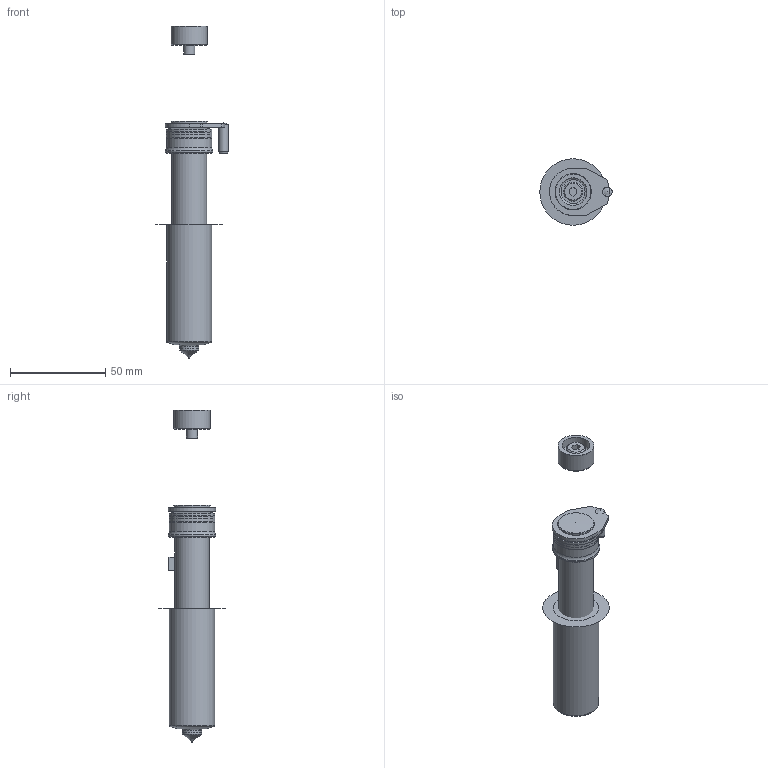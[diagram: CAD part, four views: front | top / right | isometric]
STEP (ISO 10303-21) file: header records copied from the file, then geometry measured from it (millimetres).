
FILE_DESCRIPTION(/* description */ (''),/* implementation_level */ '2;1');
FILE_NAME(/* name */ 'U500 HT-T.stp',/* time_stamp */ '2021-12-23T12:54:56+08:00',/* author */ (''),/* organization */ (''),/* preprocessor_version */ 'ST-DEVELOPER v16',/* originating_system */ 'SIEMENS PLM Software NX 11.0',/* authorisation */ '');
FILE_SCHEMA (('AUTOMOTIVE_DESIGN { 1 0 10303 214 3 1 1 1 }'));
Length unit declared in the file: millimetre
Products named in the file (19): 3D_EXPORT_3D_ASSY_11312519_0_id6_x_t; 3D_EXPORT_3D_ASSY_11312519_0_id11_x_t; 3D_EXPORT_3D_ASSY_11312519_0_id16_x_t; 3D_EXPORT_3D_ASSY_11312519_0_id21_x_t; 3D_EXPORT_3D_ASSY_11312519_0_id26_x_t; 3D_EXPORT_3D_ASSY_11312519_0_id31_x_t; 3D_EXPORT_3D_ASSY_11312519_0_id36_x_t; 3D_EXPORT_3D_ASSY_11312519_0_id41_x_t; 3D_EXPORT_3D_ASSY_11312519_0_id46_x_t; 3D_EXPORT_3D_ASSY_11312519_0_id55_x_t; 3D_EXPORT_3D_ASSY_11312519_0_id60_x_t; 3D_EXPORT_3D_ASSY_11312519_0_id65_x_t; 3D_EXPORT_3D_ASSY_11312519_0_id70_x_t; 3D_EXPORT_3D_ASSY_11312519_0_id75_x_t; 3D_EXPORT_3D_ASSY_11312519_0_id80_x_t; 3D_EXPORT_3D_ASSY_11312519_0_id85_x_t; 3D_EXPORT_3D_ASSY_11312519_0_id92_x_t; 3D_EXPORT_3D_ASSY_11312519_0_id97_x_t; 3D_EXPORT_3D_ASSY_11312519_0_x_t
Assembly tree (21 placements, depth 2):
  3D_EXPORT_3D_ASSY_11312519_0_x_t
    3D_EXPORT_3D_ASSY_11312519_0_id97_x_t
    3D_EXPORT_3D_ASSY_11312519_0_id92_x_t
    3D_EXPORT_3D_ASSY_11312519_0_id85_x_t  x2
    3D_EXPORT_3D_ASSY_11312519_0_id80_x_t
    3D_EXPORT_3D_ASSY_11312519_0_id75_x_t
    3D_EXPORT_3D_ASSY_11312519_0_id70_x_t
    3D_EXPORT_3D_ASSY_11312519_0_id65_x_t
    3D_EXPORT_3D_ASSY_11312519_0_id60_x_t
    3D_EXPORT_3D_ASSY_11312519_0_id55_x_t
    3D_EXPORT_3D_ASSY_11312519_0_id46_x_t  x3
    3D_EXPORT_3D_ASSY_11312519_0_id41_x_t
    3D_EXPORT_3D_ASSY_11312519_0_id36_x_t
    3D_EXPORT_3D_ASSY_11312519_0_id31_x_t
    3D_EXPORT_3D_ASSY_11312519_0_id26_x_t
    3D_EXPORT_3D_ASSY_11312519_0_id21_x_t
    3D_EXPORT_3D_ASSY_11312519_0_id16_x_t
    3D_EXPORT_3D_ASSY_11312519_0_id11_x_t
    3D_EXPORT_3D_ASSY_11312519_0_id6_x_t
Bounding box: 38 x 35 x 174.6 mm (x, y, z)
Volume: 69305.2 mm3; surface area: 32763.9 mm2
Topology: 21 solids, 21 shells, 224 faces, 447 edges, 281 vertices
Faces by surface type: plane 99, cylinder 62, cone 31, torus 30, sphere 2
Full cylindrical faces by diameter (mm): 0.8 x1, 1 x2, 5 x1, 5.45 x1, 5.795 x1, 6 x1, 7.4 x1, 7.48 x1, 7.5 x1, 8.944 x1, 9 x1, 9.8 x1, 10 x1, 10.007 x1, 10.012 x1, 11.86 x1, 12.5 x1, 12.568 x1, 12.66 x1, 12.715 x1, 12.735 x1, 12.76 x1, 13.005 x1, 13.23 x1, 13.725 x2, 14.5 x1, 16.307 x1, 17.125 x2, 17.62 x1, 18.4 x1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
Entity records: 6791 total; most frequent: DIRECTION 926, CARTESIAN_POINT 903, ORIENTED_EDGE 600, AXIS2_PLACEMENT_3D 411, EDGE_LOOP 326, EDGE_CURVE 300, VERTEX_POINT 241, FACE_BOUND 236
